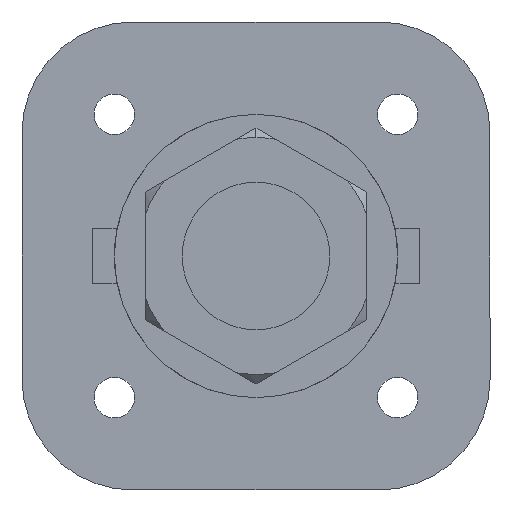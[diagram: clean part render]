
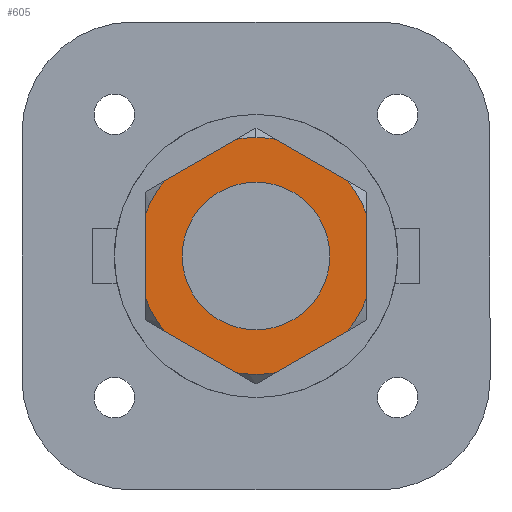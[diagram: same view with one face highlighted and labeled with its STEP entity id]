
A CAD part, front view. The second image highlights one B-rep face of the part: STEP entity #605.
In plain terms, the highlighted planar face has unit normal (0, -1, 0).
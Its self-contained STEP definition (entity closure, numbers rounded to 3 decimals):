
#66 = AXIS2_PLACEMENT_3D ( 'NONE', #3136, #3160, #499 ) ;
#93 = AXIS2_PLACEMENT_3D ( 'NONE', #3153, #513, #219 ) ;
#114 = CIRCLE ( 'NONE', #2271, 9.613 ) ;
#121 = CARTESIAN_POINT ( 'NONE',  ( 0., -25.5, -6. ) ) ;
#124 = DIRECTION ( 'NONE',  ( 0., 0., -1. ) ) ;
#153 = DIRECTION ( 'NONE',  ( 0., 0., -1. ) ) ;
#189 = CARTESIAN_POINT ( 'NONE',  ( 0., -25.5, 0. ) ) ;
#215 = VERTEX_POINT ( 'NONE', #522 ) ;
#219 = DIRECTION ( 'NONE',  ( 0., 0., -1. ) ) ;
#254 = DIRECTION ( 'NONE',  ( 0., 0., -1. ) ) ;
#256 = ORIENTED_EDGE ( 'NONE', *, *, #3546, .T. ) ;
#293 = AXIS2_PLACEMENT_3D ( 'NONE', #3775, #1460, #1749 ) ;
#297 = ORIENTED_EDGE ( 'NONE', *, *, #1389, .T. ) ;
#310 = AXIS2_PLACEMENT_3D ( 'NONE', #3710, #1395, #762 ) ;
#348 = EDGE_CURVE ( 'NONE', #381, #2198, #3656, .T. ) ;
#381 = VERTEX_POINT ( 'NONE', #3419 ) ;
#391 = DIRECTION ( 'NONE',  ( -0.866, 0., 0.5 ) ) ;
#411 = CARTESIAN_POINT ( 'NONE',  ( 0., -25.5, 0. ) ) ;
#451 = CARTESIAN_POINT ( 'NONE',  ( 0., -25.5, 0. ) ) ;
#481 = DIRECTION ( 'NONE',  ( 0., 0., -1. ) ) ;
#499 = DIRECTION ( 'NONE',  ( 0., 0., -1. ) ) ;
#502 = DIRECTION ( 'NONE',  ( 0., -1., 0. ) ) ;
#513 = DIRECTION ( 'NONE',  ( 0., -1., 0. ) ) ;
#517 = CARTESIAN_POINT ( 'NONE',  ( 1.576, -25.5, -9.482 ) ) ;
#522 = CARTESIAN_POINT ( 'NONE',  ( 0., -25.5, 9.613 ) ) ;
#527 = CIRCLE ( 'NONE', #93, 9.613 ) ;
#556 = CIRCLE ( 'NONE', #2337, 9.613 ) ;
#583 = EDGE_CURVE ( 'NONE', #1103, #667, #1637, .T. ) ;
#605 = ADVANCED_FACE ( 'NONE', ( #1376, #2797 ), #1696, .T. ) ;
#631 = ORIENTED_EDGE ( 'NONE', *, *, #3769, .T. ) ;
#667 = VERTEX_POINT ( 'NONE', #1185 ) ;
#682 = ORIENTED_EDGE ( 'NONE', *, *, #583, .T. ) ;
#703 = VERTEX_POINT ( 'NONE', #1487 ) ;
#725 = AXIS2_PLACEMENT_3D ( 'NONE', #189, #3095, #124 ) ;
#741 = CARTESIAN_POINT ( 'NONE',  ( 0., -25.5, 6. ) ) ;
#762 = DIRECTION ( 'NONE',  ( 0., 0., -1. ) ) ;
#763 = DIRECTION ( 'NONE',  ( 0., 0., -1. ) ) ;
#782 = DIRECTION ( 'NONE',  ( 0., -1., 0. ) ) ;
#864 = AXIS2_PLACEMENT_3D ( 'NONE', #451, #782, #153 ) ;
#887 = VERTEX_POINT ( 'NONE', #1577 ) ;
#942 = ORIENTED_EDGE ( 'NONE', *, *, #3475, .F. ) ;
#956 = ORIENTED_EDGE ( 'NONE', *, *, #348, .T. ) ;
#961 = LINE ( 'NONE', #2148, #2331 ) ;
#992 = ORIENTED_EDGE ( 'NONE', *, *, #1451, .F. ) ;
#995 = ORIENTED_EDGE ( 'NONE', *, *, #3610, .T. ) ;
#1077 = DIRECTION ( 'NONE',  ( -0.866, 0., -0.5 ) ) ;
#1103 = VERTEX_POINT ( 'NONE', #2356 ) ;
#1157 = ORIENTED_EDGE ( 'NONE', *, *, #1521, .T. ) ;
#1185 = CARTESIAN_POINT ( 'NONE',  ( -9., -25.5, -3.376 ) ) ;
#1279 = ORIENTED_EDGE ( 'NONE', *, *, #2963, .T. ) ;
#1333 = DIRECTION ( 'NONE',  ( 0., 0., -1. ) ) ;
#1359 = VERTEX_POINT ( 'NONE', #517 ) ;
#1376 = FACE_BOUND ( 'NONE', #1504, .T. ) ;
#1389 = EDGE_CURVE ( 'NONE', #2446, #215, #3508, .T. ) ;
#1395 = DIRECTION ( 'NONE',  ( 0., -1., 0. ) ) ;
#1451 = EDGE_CURVE ( 'NONE', #2956, #3512, #2389, .T. ) ;
#1459 = ORIENTED_EDGE ( 'NONE', *, *, #2891, .T. ) ;
#1460 = DIRECTION ( 'NONE',  ( 0., -1., 0. ) ) ;
#1464 = ORIENTED_EDGE ( 'NONE', *, *, #3695, .T. ) ;
#1487 = CARTESIAN_POINT ( 'NONE',  ( -1.576, -25.5, -9.482 ) ) ;
#1504 = EDGE_LOOP ( 'NONE', ( #942, #992 ) ) ;
#1521 = EDGE_CURVE ( 'NONE', #2198, #1103, #3662, .T. ) ;
#1528 = EDGE_LOOP ( 'NONE', ( #1459, #256, #1464, #2222, #631, #297, #3704, #956, #1157, #682, #1627, #1279, #995 ) ) ;
#1577 = CARTESIAN_POINT ( 'NONE',  ( -7.424, -25.5, -6.106 ) ) ;
#1601 = DIRECTION ( 'NONE',  ( 0., 0., -1. ) ) ;
#1627 = ORIENTED_EDGE ( 'NONE', *, *, #2256, .T. ) ;
#1637 = LINE ( 'NONE', #1659, #1722 ) ;
#1652 = CARTESIAN_POINT ( 'NONE',  ( 9., -25.5, 3.376 ) ) ;
#1659 = CARTESIAN_POINT ( 'NONE',  ( -9., -25.5, 5.196 ) ) ;
#1696 = PLANE ( 'NONE',  #310 ) ;
#1722 = VECTOR ( 'NONE', #1333, 1000. ) ;
#1749 = DIRECTION ( 'NONE',  ( 0., 0., -1. ) ) ;
#1757 = CARTESIAN_POINT ( 'NONE',  ( 0., -25.5, 0. ) ) ;
#1815 = VERTEX_POINT ( 'NONE', #1916 ) ;
#1916 = CARTESIAN_POINT ( 'NONE',  ( 7.424, -25.5, 6.106 ) ) ;
#1975 = EDGE_CURVE ( 'NONE', #2261, #1815, #527, .T. ) ;
#2030 = VECTOR ( 'NONE', #1077, 1000. ) ;
#2031 = VECTOR ( 'NONE', #391, 1000. ) ;
#2041 = VERTEX_POINT ( 'NONE', #2791 ) ;
#2148 = CARTESIAN_POINT ( 'NONE',  ( -9., -25.5, -5.196 ) ) ;
#2189 = CIRCLE ( 'NONE', #3052, 9.613 ) ;
#2196 = CARTESIAN_POINT ( 'NONE',  ( 0., -25.5, 0. ) ) ;
#2198 = VERTEX_POINT ( 'NONE', #2255 ) ;
#2222 = ORIENTED_EDGE ( 'NONE', *, *, #1975, .T. ) ;
#2244 = CARTESIAN_POINT ( 'NONE',  ( 9., -25.5, -3.376 ) ) ;
#2255 = CARTESIAN_POINT ( 'NONE',  ( -7.424, -25.5, 6.106 ) ) ;
#2256 = EDGE_CURVE ( 'NONE', #667, #887, #2189, .T. ) ;
#2261 = VERTEX_POINT ( 'NONE', #1652 ) ;
#2271 = AXIS2_PLACEMENT_3D ( 'NONE', #411, #2760, #1601 ) ;
#2316 = LINE ( 'NONE', #2627, #3071 ) ;
#2331 = VECTOR ( 'NONE', #2997, 1000. ) ;
#2337 = AXIS2_PLACEMENT_3D ( 'NONE', #2196, #3398, #763 ) ;
#2356 = CARTESIAN_POINT ( 'NONE',  ( -9., -25.5, 3.376 ) ) ;
#2389 = CIRCLE ( 'NONE', #725, 6. ) ;
#2410 = LINE ( 'NONE', #3573, #2678 ) ;
#2446 = VERTEX_POINT ( 'NONE', #2464 ) ;
#2464 = CARTESIAN_POINT ( 'NONE',  ( 1.576, -25.5, 9.482 ) ) ;
#2627 = CARTESIAN_POINT ( 'NONE',  ( 9., -25.5, -5.196 ) ) ;
#2678 = VECTOR ( 'NONE', #3306, 1000. ) ;
#2740 = LINE ( 'NONE', #3580, #2031 ) ;
#2760 = DIRECTION ( 'NONE',  ( 0., -1., 0. ) ) ;
#2768 = CIRCLE ( 'NONE', #864, 6. ) ;
#2791 = CARTESIAN_POINT ( 'NONE',  ( 7.424, -25.5, -6.106 ) ) ;
#2797 = FACE_OUTER_BOUND ( 'NONE', #1528, .T. ) ;
#2855 = DIRECTION ( 'NONE',  ( 0., -1., 0. ) ) ;
#2891 = EDGE_CURVE ( 'NONE', #1359, #2041, #2410, .T. ) ;
#2954 = AXIS2_PLACEMENT_3D ( 'NONE', #1757, #2855, #254 ) ;
#2956 = VERTEX_POINT ( 'NONE', #121 ) ;
#2963 = EDGE_CURVE ( 'NONE', #887, #703, #961, .T. ) ;
#2997 = DIRECTION ( 'NONE',  ( 0.866, 0., -0.5 ) ) ;
#3044 = VERTEX_POINT ( 'NONE', #2244 ) ;
#3052 = AXIS2_PLACEMENT_3D ( 'NONE', #3120, #502, #481 ) ;
#3071 = VECTOR ( 'NONE', #3182, 1000. ) ;
#3095 = DIRECTION ( 'NONE',  ( 0., -1., 0. ) ) ;
#3120 = CARTESIAN_POINT ( 'NONE',  ( 0., -25.5, 0. ) ) ;
#3136 = CARTESIAN_POINT ( 'NONE',  ( 0., -25.5, 0. ) ) ;
#3153 = CARTESIAN_POINT ( 'NONE',  ( 0., -25.5, 0. ) ) ;
#3155 = CARTESIAN_POINT ( 'NONE',  ( 0., -25.5, 10.392 ) ) ;
#3160 = DIRECTION ( 'NONE',  ( 0., -1., 0. ) ) ;
#3182 = DIRECTION ( 'NONE',  ( 0., 0., 1. ) ) ;
#3258 = CIRCLE ( 'NONE', #2954, 9.613 ) ;
#3306 = DIRECTION ( 'NONE',  ( 0.866, 0., 0.5 ) ) ;
#3398 = DIRECTION ( 'NONE',  ( 0., -1., 0. ) ) ;
#3419 = CARTESIAN_POINT ( 'NONE',  ( -1.576, -25.5, 9.482 ) ) ;
#3475 = EDGE_CURVE ( 'NONE', #3512, #2956, #2768, .T. ) ;
#3508 = CIRCLE ( 'NONE', #66, 9.613 ) ;
#3512 = VERTEX_POINT ( 'NONE', #741 ) ;
#3546 = EDGE_CURVE ( 'NONE', #2041, #3044, #114, .T. ) ;
#3564 = EDGE_CURVE ( 'NONE', #215, #381, #556, .T. ) ;
#3573 = CARTESIAN_POINT ( 'NONE',  ( 0., -25.5, -10.392 ) ) ;
#3580 = CARTESIAN_POINT ( 'NONE',  ( 9., -25.5, 5.196 ) ) ;
#3610 = EDGE_CURVE ( 'NONE', #703, #1359, #3258, .T. ) ;
#3656 = LINE ( 'NONE', #3155, #2030 ) ;
#3662 = CIRCLE ( 'NONE', #293, 9.613 ) ;
#3695 = EDGE_CURVE ( 'NONE', #3044, #2261, #2316, .T. ) ;
#3704 = ORIENTED_EDGE ( 'NONE', *, *, #3564, .T. ) ;
#3710 = CARTESIAN_POINT ( 'NONE',  ( 0., -25.5, 0. ) ) ;
#3769 = EDGE_CURVE ( 'NONE', #1815, #2446, #2740, .T. ) ;
#3775 = CARTESIAN_POINT ( 'NONE',  ( 0., -25.5, 0. ) ) ;
